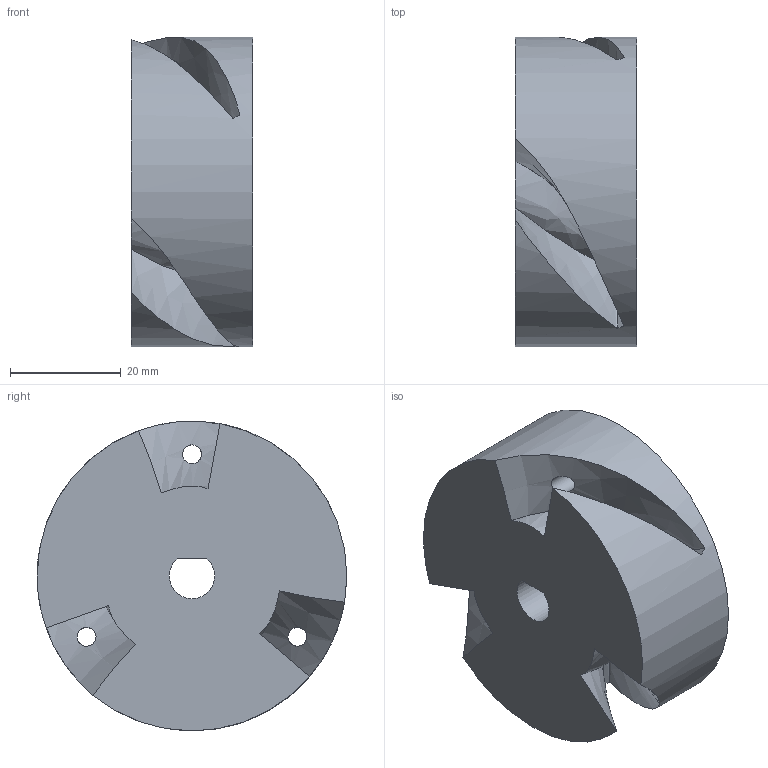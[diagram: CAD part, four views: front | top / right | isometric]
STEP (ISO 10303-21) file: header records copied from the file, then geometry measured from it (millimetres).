
FILE_DESCRIPTION(('Open CASCADE Model'),'2;1');
FILE_NAME('Open CASCADE Shape Model','2026-11-02T23:22:38',('Author'),( 'Open CASCADE'),'Open CASCADE STEP processor 7.9','Open CASCADE 7.9' ,'Unknown');
FILE_SCHEMA(('AUTOMOTIVE_DESIGN { 1 0 10303 214 1 1 1 1 }'));
Length unit declared in the file: millimetre
Products named in the file (1): Open CASCADE STEP translator 7.9 3
Bounding box: 22 x 56 x 56 mm (x, y, z)
Volume: 45044.4 mm3; surface area: 11488.4 mm2
Topology: 1 solids, 1 shells, 27 faces, 66 edges, 44 vertices
Faces by surface type: bspline 12, cylinder 9, plane 6
Full cylindrical faces by diameter (mm): 3.4 x3, 7.5 x3, 56 x1
Entity records: 13822 total; most frequent: CARTESIAN_POINT 12680, DIRECTION 133, ORIENTED_EDGE 132, PCURVE 132, DEFINITIONAL_REPRESENTATION 132, B_SPLINE_CURVE_WITH_KNOTS 107, EDGE_CURVE 66, SURFACE_CURVE 59
